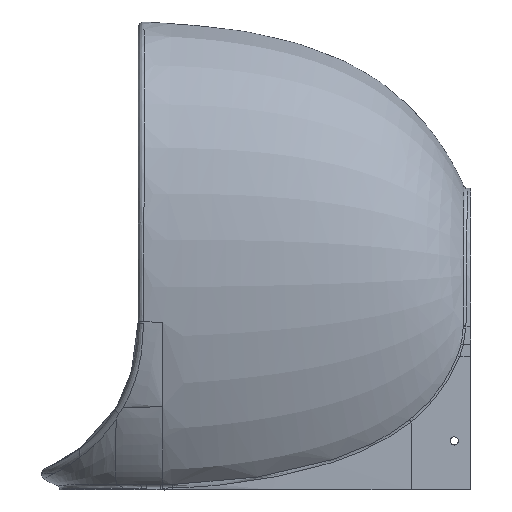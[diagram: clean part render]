
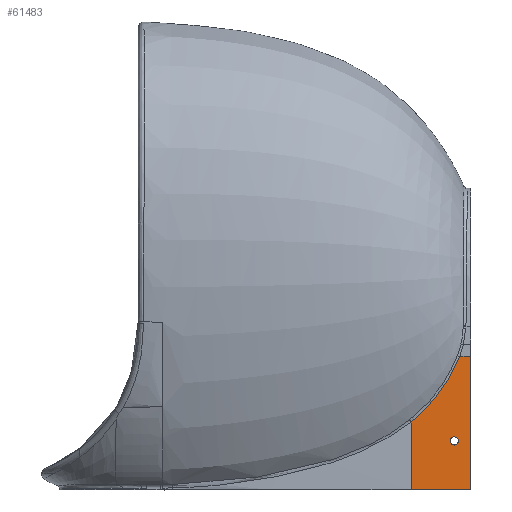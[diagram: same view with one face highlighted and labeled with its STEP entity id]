
A CAD part, left-side view. The second image highlights one B-rep face of the part: STEP entity #61483.
In plain terms, the highlighted planar face has unit normal (-1, 0, 0).
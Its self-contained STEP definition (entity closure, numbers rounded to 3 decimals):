
#1548 = AXIS2_PLACEMENT_3D ( 'NONE', #96666, #74195, #138135 ) ;
#1649 = CARTESIAN_POINT ( 'NONE',  ( -200.626, -302.982, -121.575 ) ) ;
#3364 = EDGE_CURVE ( 'NONE', #25280, #46577, #47748, .T. ) ;
#4048 = VERTEX_POINT ( 'NONE', #38432 ) ;
#8572 = CIRCLE ( 'NONE', #35420, 5. ) ;
#10118 = CARTESIAN_POINT ( 'NONE',  ( -200.626, -272.518, -162.251 ) ) ;
#11697 = FACE_BOUND ( 'NONE', #12579, .T. ) ;
#12348 = ORIENTED_EDGE ( 'NONE', *, *, #3364, .F. ) ;
#12579 = EDGE_LOOP ( 'NONE', ( #125190, #95837 ) ) ;
#14245 = CARTESIAN_POINT ( 'NONE',  ( -200.626, -298.374, -121.695 ) ) ;
#17356 = EDGE_CURVE ( 'NONE', #66289, #126775, #109842, .T. ) ;
#17961 = LINE ( 'NONE', #81868, #57659 ) ;
#19687 = AXIS2_PLACEMENT_3D ( 'NONE', #99277, #128137, #64206 ) ;
#19947 = CARTESIAN_POINT ( 'NONE',  ( -200.626, -274.916, -158.808 ) ) ;
#20145 = PLANE ( 'NONE',  #1548 ) ;
#20631 = CARTESIAN_POINT ( 'NONE',  ( -200.626, -238.213, -198.844 ) ) ;
#20804 = ORIENTED_EDGE ( 'NONE', *, *, #127440, .T. ) ;
#21316 = CARTESIAN_POINT ( 'NONE',  ( -200.626, -306.019, -121.504 ) ) ;
#22012 = CARTESIAN_POINT ( 'NONE',  ( -200.626, -294.294, -121.81 ) ) ;
#22704 = CARTESIAN_POINT ( 'NONE',  ( -200.626, -304.501, -121.539 ) ) ;
#24766 = CARTESIAN_POINT ( 'NONE',  ( -200.626, -301.446, -121.613 ) ) ;
#25280 = VERTEX_POINT ( 'NONE', #40610 ) ;
#26929 = EDGE_CURVE ( 'NONE', #126085, #126775, #135954, .T. ) ;
#30484 = CARTESIAN_POINT ( 'NONE',  ( -200.626, -281.624, -148.208 ) ) ;
#31172 = CARTESIAN_POINT ( 'NONE',  ( -200.626, -291.15, -129.618 ) ) ;
#31861 = CARTESIAN_POINT ( 'NONE',  ( -200.626, -307.538, -121.471 ) ) ;
#32408 = DIRECTION ( 'NONE',  ( -1., 0., 0. ) ) ;
#35420 = AXIS2_PLACEMENT_3D ( 'NONE', #138476, #32408, #65395 ) ;
#38432 = CARTESIAN_POINT ( 'NONE',  ( -200.626, -282.538, -224.921 ) ) ;
#39737 = CARTESIAN_POINT ( 'NONE',  ( -200.626, -234.914, -185.723 ) ) ;
#40610 = CARTESIAN_POINT ( 'NONE',  ( -200.626, -307.538, -121.471 ) ) ;
#41728 = CARTESIAN_POINT ( 'NONE',  ( -200.626, -256.578, -181.736 ) ) ;
#42305 = ORIENTED_EDGE ( 'NONE', *, *, #80032, .F. ) ;
#43613 = EDGE_LOOP ( 'NONE', ( #12348, #107395, #20804, #61087, #96695, #42305 ) ) ;
#46577 = VERTEX_POINT ( 'NONE', #67513 ) ;
#47748 = LINE ( 'NONE', #61043, #97732 ) ;
#49969 = CARTESIAN_POINT ( 'NONE',  ( -200.626, -234.914, -201.461 ) ) ;
#51564 = CARTESIAN_POINT ( 'NONE',  ( -200.626, -294.294, -121.81 ) ) ;
#57257 = CARTESIAN_POINT ( 'NONE',  ( -200.626, -294.294, -121.81 ) ) ;
#57659 = VECTOR ( 'NONE', #125417, 1000. ) ;
#60500 = CARTESIAN_POINT ( 'NONE',  ( -200.626, -234.914, -203.204 ) ) ;
#60810 = B_SPLINE_CURVE_WITH_KNOTS ( 'NONE', 3,
 ( #31861, #21316, #22704, #1649, #24766, #67599, #14245, #109092, #130165, #22012 ),
 .UNSPECIFIED., .F., .F.,
 ( 4, 3, 3, 4 ),
 ( 0., 0.005, 0.009, 0.013 ),
 .UNSPECIFIED. ) ;
#61043 = CARTESIAN_POINT ( 'NONE',  ( -200.626, -307.538, -284.921 ) ) ;
#61087 = ORIENTED_EDGE ( 'NONE', *, *, #17356, .T. ) ;
#61483 = ADVANCED_FACE ( 'NONE', ( #11697, #107207 ), #20145, .T. ) ;
#62309 = CIRCLE ( 'NONE', #19687, 5. ) ;
#62795 = CARTESIAN_POINT ( 'NONE',  ( -200.626, -267.448, -168.979 ) ) ;
#63479 = CARTESIAN_POINT ( 'NONE',  ( -200.626, -234.914, -201.461 ) ) ;
#64206 = DIRECTION ( 'NONE',  ( 0., 0., 1. ) ) ;
#64300 = B_SPLINE_CURVE_WITH_KNOTS ( 'NONE', 3,
 ( #51564, #137256, #31172, #83860, #126715, #30484, #105635, #19947, #10118, #74688, #62795, #85232, #137941, #117549, #41728, #73999, #116863, #128093, #20631, #63479 ),
 .UNSPECIFIED., .F., .F.,
 ( 4, 2, 2, 2, 2, 2, 2, 2, 2, 4 ),
 ( 0., 0.013, 0.025, 0.038, 0.05, 0.056, 0.063, 0.075, 0.088, 0.1 ),
 .UNSPECIFIED. ) ;
#65395 = DIRECTION ( 'NONE',  ( 0., 0., 1. ) ) ;
#66289 = VERTEX_POINT ( 'NONE', #83437 ) ;
#67513 = CARTESIAN_POINT ( 'NONE',  ( -200.626, -307.538, -284.921 ) ) ;
#67599 = CARTESIAN_POINT ( 'NONE',  ( -200.626, -299.91, -121.652 ) ) ;
#73999 = CARTESIAN_POINT ( 'NONE',  ( -200.626, -250.733, -187.711 ) ) ;
#74195 = DIRECTION ( 'NONE',  ( -1., 0., 0. ) ) ;
#74688 = CARTESIAN_POINT ( 'NONE',  ( -200.626, -268.737, -167.313 ) ) ;
#78476 = CARTESIAN_POINT ( 'NONE',  ( -200.626, -234.914, -203.204 ) ) ;
#80032 = EDGE_CURVE ( 'NONE', #46577, #126085, #17961, .T. ) ;
#81868 = CARTESIAN_POINT ( 'NONE',  ( -200.626, 256.843, -284.921 ) ) ;
#82972 = CARTESIAN_POINT ( 'NONE',  ( -200.626, -234.914, -202.042 ) ) ;
#83437 = CARTESIAN_POINT ( 'NONE',  ( -200.626, -234.914, -201.461 ) ) ;
#83860 = CARTESIAN_POINT ( 'NONE',  ( -200.626, -287.596, -137.197 ) ) ;
#85232 = CARTESIAN_POINT ( 'NONE',  ( -200.626, -264.823, -172.26 ) ) ;
#93149 = CARTESIAN_POINT ( 'NONE',  ( -200.626, -292.538, -224.921 ) ) ;
#94353 = EDGE_CURVE ( 'NONE', #124675, #4048, #62309, .T. ) ;
#95837 = ORIENTED_EDGE ( 'NONE', *, *, #94353, .F. ) ;
#96666 = CARTESIAN_POINT ( 'NONE',  ( -200.626, -307.538, -284.921 ) ) ;
#96695 = ORIENTED_EDGE ( 'NONE', *, *, #26929, .F. ) ;
#97732 = VECTOR ( 'NONE', #134812, 1000. ) ;
#99277 = CARTESIAN_POINT ( 'NONE',  ( -200.626, -287.538, -224.921 ) ) ;
#102378 = EDGE_CURVE ( 'NONE', #4048, #124675, #8572, .T. ) ;
#104343 = DIRECTION ( 'NONE',  ( 0., 0., 1. ) ) ;
#105635 = CARTESIAN_POINT ( 'NONE',  ( -200.626, -279.469, -151.786 ) ) ;
#107207 = FACE_OUTER_BOUND ( 'NONE', #43613, .T. ) ;
#107395 = ORIENTED_EDGE ( 'NONE', *, *, #127573, .T. ) ;
#109092 = CARTESIAN_POINT ( 'NONE',  ( -200.626, -297.014, -121.733 ) ) ;
#109842 = B_SPLINE_CURVE_WITH_KNOTS ( 'NONE', 3,
 ( #49969, #82972, #113887, #60500 ),
 .UNSPECIFIED., .F., .F.,
 ( 4, 4 ),
 ( 0.76, 0.897 ),
 .UNSPECIFIED. ) ;
#111641 = CARTESIAN_POINT ( 'NONE',  ( -200.626, -234.914, -284.921 ) ) ;
#113887 = CARTESIAN_POINT ( 'NONE',  ( -200.626, -234.914, -202.623 ) ) ;
#116863 = CARTESIAN_POINT ( 'NONE',  ( -200.626, -247.71, -190.6 ) ) ;
#117549 = CARTESIAN_POINT ( 'NONE',  ( -200.626, -259.4, -178.649 ) ) ;
#124675 = VERTEX_POINT ( 'NONE', #93149 ) ;
#125190 = ORIENTED_EDGE ( 'NONE', *, *, #102378, .F. ) ;
#125417 = DIRECTION ( 'NONE',  ( 0., 1., 0. ) ) ;
#126085 = VERTEX_POINT ( 'NONE', #111641 ) ;
#126715 = CARTESIAN_POINT ( 'NONE',  ( -200.626, -285.688, -140.913 ) ) ;
#126775 = VERTEX_POINT ( 'NONE', #78476 ) ;
#127440 = EDGE_CURVE ( 'NONE', #130224, #66289, #64300, .T. ) ;
#127573 = EDGE_CURVE ( 'NONE', #25280, #130224, #60810, .T. ) ;
#128093 = CARTESIAN_POINT ( 'NONE',  ( -200.626, -241.451, -196.167 ) ) ;
#128137 = DIRECTION ( 'NONE',  ( -1., 0., 0. ) ) ;
#130165 = CARTESIAN_POINT ( 'NONE',  ( -200.626, -295.654, -121.772 ) ) ;
#130224 = VERTEX_POINT ( 'NONE', #57257 ) ;
#134812 = DIRECTION ( 'NONE',  ( 0., 0., -1. ) ) ;
#135943 = VECTOR ( 'NONE', #104343, 1000. ) ;
#135954 = LINE ( 'NONE', #39737, #135943 ) ;
#137256 = CARTESIAN_POINT ( 'NONE',  ( -200.626, -292.796, -125.756 ) ) ;
#137941 = CARTESIAN_POINT ( 'NONE',  ( -200.626, -263.486, -173.875 ) ) ;
#138135 = DIRECTION ( 'NONE',  ( 0., 1., 0. ) ) ;
#138476 = CARTESIAN_POINT ( 'NONE',  ( -200.626, -287.538, -224.921 ) ) ;
